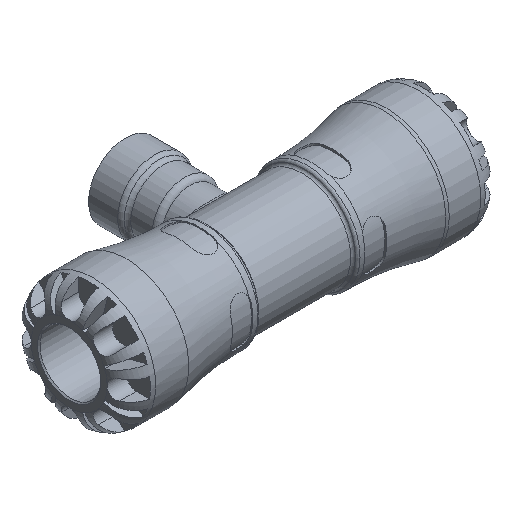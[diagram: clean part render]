
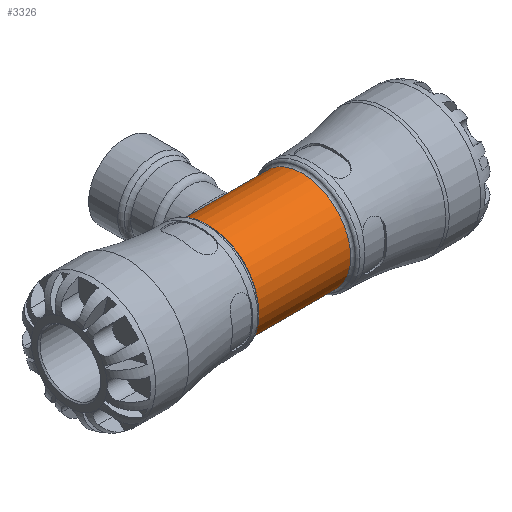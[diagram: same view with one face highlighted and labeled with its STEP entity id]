
A CAD part, isometric view. The second image highlights one B-rep face of the part: STEP entity #3326.
In plain terms, the highlighted cylindrical face has radius 15.99 mm (diameter 31.98 mm), a full revolution.
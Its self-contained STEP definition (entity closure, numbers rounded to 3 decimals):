
#467=FACE_BOUND('',#776,.T.);
#468=FACE_BOUND('',#777,.T.);
#502=CYLINDRICAL_SURFACE('',#3531,15.99);
#572=FACE_OUTER_BOUND('',#775,.T.);
#775=EDGE_LOOP('',(#2150));
#776=EDGE_LOOP('',(#2151));
#777=EDGE_LOOP('',(#2152));
#1010=B_SPLINE_CURVE_WITH_KNOTS('',3,(#4978,#4979,#4980,#4981,#4982,#4983,
#4984,#4985,#4986,#4987,#4988,#4989,#4990,#4991,#4992,#4993,#4994,#4995,
#4996,#4997,#4998,#4999,#5000),.UNSPECIFIED.,.T.,.F.,(4,1,1,1,1,1,1,1,1,
1,1,1,1,1,1,1,1,1,1,1,4),(-5.78,-5.573,-5.367,
-4.954,-4.541,-4.335,-4.128,
-3.715,-3.303,-3.027,-2.752,
-2.477,-2.202,-1.927,-1.651,
-1.238,-0.826,-0.619,-0.413,
-0.206,0.),.UNSPECIFIED.);
#1158=CIRCLE('',#3532,15.99);
#1159=CIRCLE('',#3533,15.99);
#1337=VERTEX_POINT('',#4952);
#1340=VERTEX_POINT('',#5005);
#1341=VERTEX_POINT('',#5007);
#1658=EDGE_CURVE('',#1337,#1337,#1010,.T.);
#1660=EDGE_CURVE('',#1340,#1340,#1158,.T.);
#1661=EDGE_CURVE('',#1341,#1341,#1159,.T.);
#2150=ORIENTED_EDGE('',*,*,#1660,.F.);
#2151=ORIENTED_EDGE('',*,*,#1661,.F.);
#2152=ORIENTED_EDGE('',*,*,#1658,.F.);
#3326=ADVANCED_FACE('',(#572,#467,#468),#502,.T.);
#3531=AXIS2_PLACEMENT_3D('',#5004,#3918,#3919);
#3532=AXIS2_PLACEMENT_3D('',#5006,#3920,#3921);
#3533=AXIS2_PLACEMENT_3D('',#5008,#3922,#3923);
#3918=DIRECTION('center_axis',(1.,0.,0.));
#3919=DIRECTION('ref_axis',(0.,1.,0.));
#3920=DIRECTION('center_axis',(1.,0.,0.));
#3921=DIRECTION('ref_axis',(0.,1.,0.));
#3922=DIRECTION('center_axis',(-1.,0.,0.));
#3923=DIRECTION('ref_axis',(0.,1.,0.));
#4952=CARTESIAN_POINT('',(0.,12.468,-10.012));
#4978=CARTESIAN_POINT('Ctrl Pts',(0.,12.467,
-10.012));
#4979=CARTESIAN_POINT('Ctrl Pts',(-0.861,12.467,-10.012));
#4980=CARTESIAN_POINT('Ctrl Pts',(-2.583,12.616,-9.832));
#4981=CARTESIAN_POINT('Ctrl Pts',(-5.748,13.383,-8.805));
#4982=CARTESIAN_POINT('Ctrl Pts',(-8.964,14.773,-6.508));
#4983=CARTESIAN_POINT('Ctrl Pts',(-10.876,15.82,-3.091));
#4984=CARTESIAN_POINT('Ctrl Pts',(-11.279,16.046,0.));
#4985=CARTESIAN_POINT('Ctrl Pts',(-10.877,15.821,3.09));
#4986=CARTESIAN_POINT('Ctrl Pts',(-8.963,14.772,6.508));
#4987=CARTESIAN_POINT('Ctrl Pts',(-5.536,13.292,8.958));
#4988=CARTESIAN_POINT('Ctrl Pts',(-1.759,12.439,10.051));
#4989=CARTESIAN_POINT('Ctrl Pts',(1.76,12.438,10.05));
#4990=CARTESIAN_POINT('Ctrl Pts',(4.997,13.169,9.117));
#4991=CARTESIAN_POINT('Ctrl Pts',(7.699,14.208,7.453));
#4992=CARTESIAN_POINT('Ctrl Pts',(9.766,15.213,5.161));
#4993=CARTESIAN_POINT('Ctrl Pts',(11.274,16.041,1.868));
#4994=CARTESIAN_POINT('Ctrl Pts',(11.269,16.04,-2.403));
#4995=CARTESIAN_POINT('Ctrl Pts',(9.342,14.977,-5.828));
#4996=CARTESIAN_POINT('Ctrl Pts',(7.035,13.942,-7.882));
#4997=CARTESIAN_POINT('Ctrl Pts',(4.957,13.19,-9.065));
#4998=CARTESIAN_POINT('Ctrl Pts',(2.583,12.616,-9.831));
#4999=CARTESIAN_POINT('Ctrl Pts',(0.861,12.467,-10.012));
#5000=CARTESIAN_POINT('Ctrl Pts',(0.,12.467,
-10.012));
#5004=CARTESIAN_POINT('Origin',(7.995,0.,0.));
#5005=CARTESIAN_POINT('',(15.183,-15.99,0.));
#5006=CARTESIAN_POINT('Origin',(15.183,0.,0.));
#5007=CARTESIAN_POINT('',(-15.183,-15.99,0.));
#5008=CARTESIAN_POINT('Origin',(-15.183,0.,0.));
